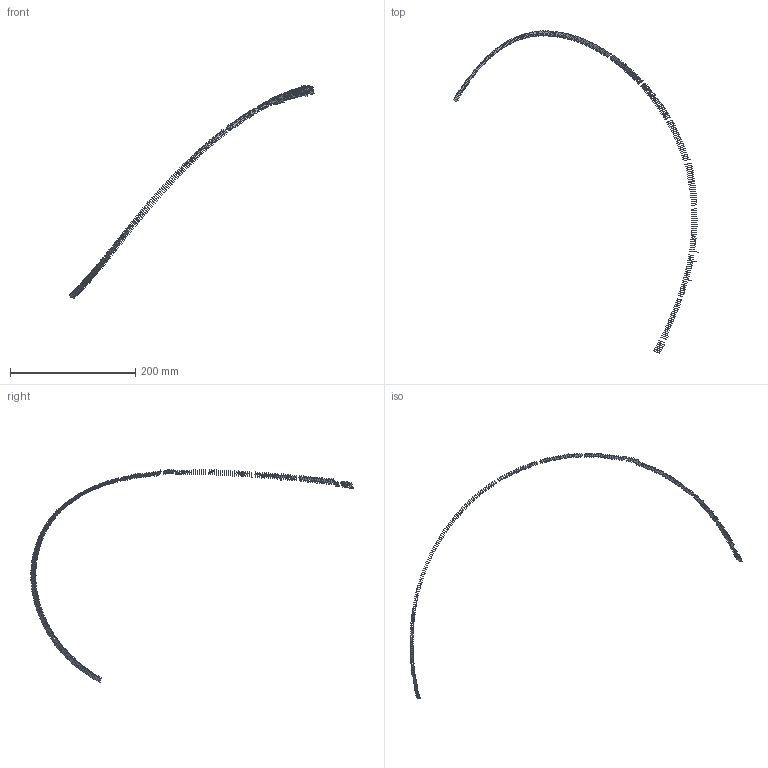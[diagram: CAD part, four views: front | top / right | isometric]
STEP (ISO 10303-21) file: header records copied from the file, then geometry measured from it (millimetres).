
FILE_DESCRIPTION(('FreeCAD Model'),'2;1');
FILE_NAME('Open CASCADE Shape Model','2022-05-22T07:50:21',('FreeCAD'),( 'FreeCAD'),'Open CASCADE STEP processor 7.5','FreeCAD','Unknown');
FILE_SCHEMA(('AUTOMOTIVE_DESIGN { 1 0 10303 214 1 1 1 1 }'));
Length unit declared in the file: millimetre
Products named in the file (299): Open CASCADE STEP translator 7.5 22; Open CASCADE STEP translator 7.5 22.1; Open CASCADE STEP translator 7.5 22.2; Open CASCADE STEP translator 7.5 22.3; Open CASCADE STEP translator 7.5 22.4; Open CASCADE STEP translator 7.5 22.5; Open CASCADE STEP translator 7.5 22.6; Open CASCADE STEP translator 7.5 22.7; Open CASCADE STEP translator 7.5 22.8; Open CASCADE STEP translator 7.5 22.9; Open CASCADE STEP translator 7.5 22.10; Open CASCADE STEP translator 7.5 22.11; Open CASCADE STEP translator 7.5 22.12; Open CASCADE STEP translator 7.5 22.13; Open CASCADE STEP translator 7.5 22.14; Open CASCADE STEP translator 7.5 22.15; Open CASCADE STEP translator 7.5 22.16; Open CASCADE STEP translator 7.5 22.17; Open CASCADE STEP translator 7.5 22.18; Open CASCADE STEP translator 7.5 22.19; Open CASCADE STEP translator 7.5 22.20; Open CASCADE STEP translator 7.5 22.21; Open CASCADE STEP translator 7.5 22.22; Open CASCADE STEP translator 7.5 22.23; Open CASCADE STEP translator 7.5 22.24; Open CASCADE STEP translator 7.5 22.25; Open CASCADE STEP translator 7.5 22.26; Open CASCADE STEP translator 7.5 22.27; Open CASCADE STEP translator 7.5 22.28; Open CASCADE STEP translator 7.5 22.29; Open CASCADE STEP translator 7.5 22.30; Open CASCADE STEP translator 7.5 22.31; Open CASCADE STEP translator 7.5 22.32; Open CASCADE STEP translator 7.5 22.33; Open CASCADE STEP translator 7.5 22.34; Open CASCADE STEP translator 7.5 22.35; Open CASCADE STEP translator 7.5 22.36; Open CASCADE STEP translator 7.5 22.37; Open CASCADE STEP translator 7.5 22.38; Open CASCADE STEP translator 7.5 22.39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
Assembly tree (298 placements, depth 2):
  Open CASCADE STEP translator 7.5 22
    Open CASCADE STEP translator 7.5 22.1
    Open CASCADE STEP translator 7.5 22.2
    Open CASCADE STEP translator 7.5 22.3
    Open CASCADE STEP translator 7.5 22.4
    Open CASCADE STEP translator 7.5 22.5
    Open CASCADE STEP translator 7.5 22.6
    Open CASCADE STEP translator 7.5 22.7
    Open CASCADE STEP translator 7.5 22.8
    Open CASCADE STEP translator 7.5 22.9
    Open CASCADE STEP translator 7.5 22.10
    Open CASCADE STEP translator 7.5 22.11
    Open CASCADE STEP translator 7.5 22.12
    Open CASCADE STEP translator 7.5 22.13
    Open CASCADE STEP translator 7.5 22.14
    Open CASCADE STEP translator 7.5 22.15
    Open CASCADE STEP translator 7.5 22.16
    Open CASCADE STEP translator 7.5 22.17
    Open CASCADE STEP translator 7.5 22.18
    Open CASCADE STEP translator 7.5 22.19
    Open CASCADE STEP translator 7.5 22.20
    Open CASCADE STEP translator 7.5 22.21
    Open CASCADE STEP translator 7.5 22.22
    Open CASCADE STEP translator 7.5 22.23
    Open CASCADE STEP translator 7.5 22.24
    Open CASCADE STEP translator 7.5 22.25
    Open CASCADE STEP translator 7.5 22.26
    Open CASCADE STEP translator 7.5 22.27
    Open CASCADE STEP translator 7.5 22.28
    Open CASCADE STEP translator 7.5 22.29
    Open CASCADE STEP translator 7.5 22.30
    Open CASCADE STEP translator 7.5 22.31
    Open CASCADE STEP translator 7.5 22.32
    Open CASCADE STEP translator 7.5 22.33
    Open CASCADE STEP translator 7.5 22.34
    Open CASCADE STEP translator 7.5 22.35
    Open CASCADE STEP translator 7.5 22.36
    Open CASCADE STEP translator 7.5 22.37
    Open CASCADE STEP translator 7.5 22.38
    Open CASCADE STEP translator 7.5 22.39
    Open CASCADE STEP translator 7.5 22.40
    Open CASCADE STEP translator 7.5 22.41
    Open CASCADE STEP translator 7.5 22.42
    Open CASCADE STEP translator 7.5 22.43
    Open CASCADE STEP translator 7.5 22.44
    Open CASCADE STEP translator 7.5 22.45
    Open CASCADE STEP translator 7.5 22.46
    Open CASCADE STEP translator 7.5 22.47
    Open CASCADE STEP translator 7.5 22.48
    Open CASCADE STEP translator 7.5 22.49
    Open CASCADE STEP translator 7.5 22.50
    Open CASCADE STEP translator 7.5 22.51
    Open CASCADE STEP translator 7.5 22.52
    Open CASCADE STEP translator 7.5 22.53
    Open CASCADE STEP translator 7.5 22.54
    Open CASCADE STEP translator 7.5 22.55
    Open CASCADE STEP translator 7.5 22.56
    Open CASCADE STEP translator 7.5 22.57
    Open CASCADE STEP translator 7.5 22.58
    Open CASCADE STEP translator 7.5 22.59
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Bounding box: 390.85 x 515.06 x 340.33 mm (x, y, z)
Surface area: 10318.1 mm2 (no closed solid volume)
Topology: 0 solids, 298 shells, 298 faces, 4090 edges, 4090 vertices
Faces by surface type: bspline 298
Entity records: 61530 total; most frequent: CARTESIAN_POINT 21941, B_SPLINE_CURVE_WITH_KNOTS 8180, ORIENTED_EDGE 4090, EDGE_CURVE 4090, VERTEX_POINT 4090, SURFACE_CURVE 4090, PCURVE 4090, DEFINITIONAL_REPRESENTATION 4090
